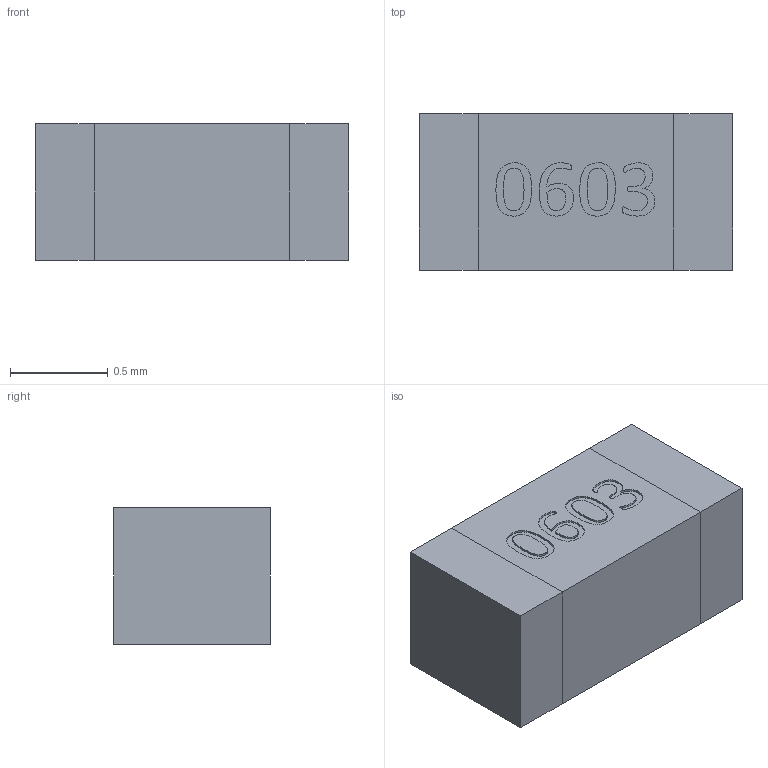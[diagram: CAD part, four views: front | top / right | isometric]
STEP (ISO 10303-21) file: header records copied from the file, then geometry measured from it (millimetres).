
FILE_DESCRIPTION (( 'STEP AP203' ), '1' );
FILE_NAME ('0603 Capacitor.stp.STEP', '2026-08-19T20:49:49', ( '' ), ( '' ), 'SwSTEP 2.0', 'SolidWorks 2024', '' );
FILE_SCHEMA (( 'CONFIG_CONTROL_DESIGN' ));
Length unit declared in the file: millimetre
Products named in the file (1): 0603 Capacitor.stp
Bounding box: 1.6 x 0.8 x 0.7 mm (x, y, z)
Volume: 0.9 mm3; surface area: 6 mm2
Topology: 1 solids, 1 shells, 68 faces, 169 edges, 110 vertices
Faces by surface type: bspline 45, plane 23
Entity records: 4781 total; most frequent: CARTESIAN_POINT 3402, ORIENTED_EDGE 338, EDGE_CURVE 169, DIRECTION 126, VERTEX_POINT 110, B_SPLINE_CURVE_WITH_KNOTS 91, LINE 78, VECTOR 78
